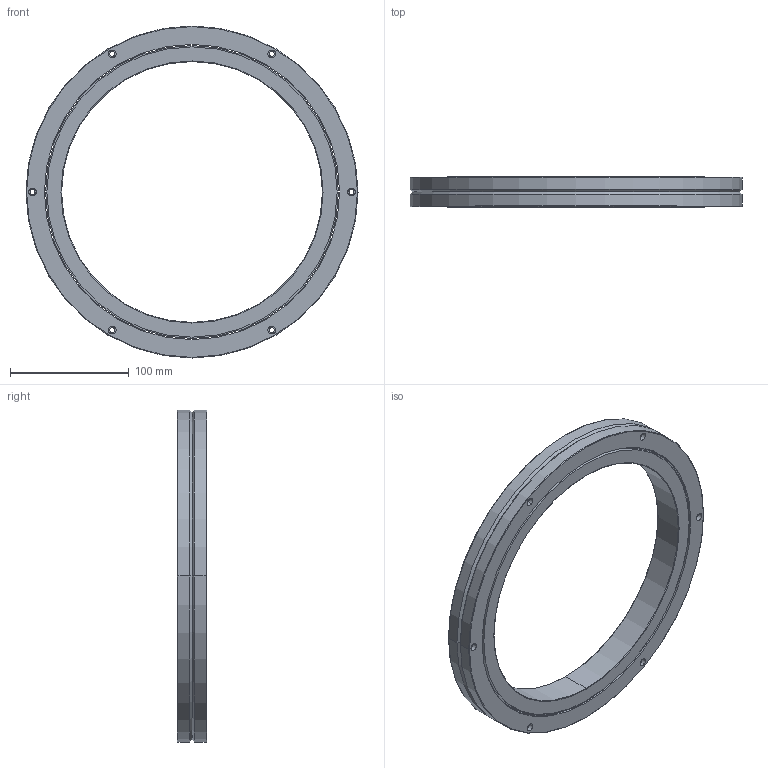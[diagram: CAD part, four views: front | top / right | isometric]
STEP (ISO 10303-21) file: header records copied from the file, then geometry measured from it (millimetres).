
FILE_DESCRIPTION((''),'2;1');
FILE_NAME('RB22025','2015-08-27T',('Administrator'),(''),'PRO/ENGINEER BY PARAMETRIC TECHNOLOGY CORPORATION, 2010180','PRO/ENGINEER BY PARAMETRIC TECHNOLOGY CORPORATION, 2010180','');
FILE_SCHEMA(('AUTOMOTIVE_DESIGN_CC2 { 1 2 10303 214 -1 1 5 2 }'));
Length unit declared in the file: millimetre
Products named in the file (1): RB22025
Bounding box: 280 x 25 x 280 mm (x, y, z)
Volume: 481609.3 mm3; surface area: 146277.8 mm2
Topology: 2 solids, 2 shells, 104 faces, 220 edges, 138 vertices
Faces by surface type: cylinder 62, plane 22, cone 12, torus 8
Entity records: 2965 total; most frequent: DIRECTION 574, CARTESIAN_POINT 462, ORIENTED_EDGE 440, AXIS2_PLACEMENT_3D 250, EDGE_CURVE 220, CIRCLE 146, VERTEX_POINT 138, EDGE_LOOP 138
